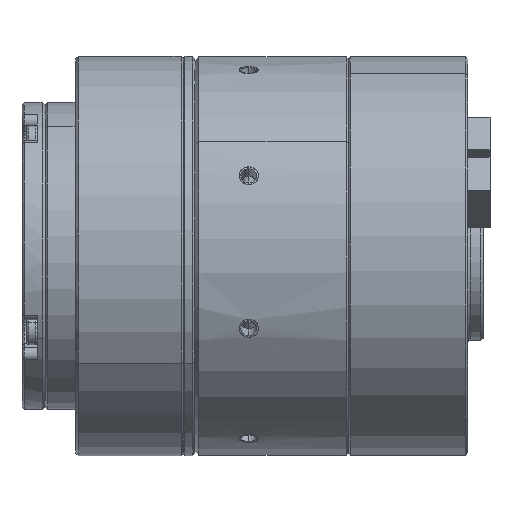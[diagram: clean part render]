
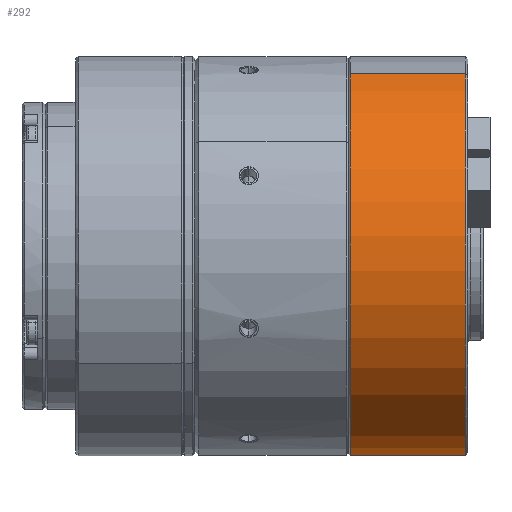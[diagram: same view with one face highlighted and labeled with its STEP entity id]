
A CAD part, left-side view. The second image highlights one B-rep face of the part: STEP entity #292.
In plain terms, the highlighted cylindrical face has radius 26 mm (diameter 52 mm), a partial arc.
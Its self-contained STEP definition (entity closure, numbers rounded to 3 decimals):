
#273 = DIRECTION ( 'NONE',  ( 0., -1., 0. ) ) ;
#292 = ADVANCED_FACE ( 'NONE', ( #4218 ), #4007, .T. ) ;
#341 = DIRECTION ( 'NONE',  ( 0.41, 0., -0.912 ) ) ;
#1719 = DIRECTION ( 'NONE',  ( 0., -1., 0. ) ) ;
#2268 = ORIENTED_EDGE ( 'NONE', *, *, #31131, .T. ) ;
#2288 = DIRECTION ( 'NONE',  ( 0., -1., 0. ) ) ;
#3320 = VERTEX_POINT ( 'NONE', #39331 ) ;
#4007 = CYLINDRICAL_SURFACE ( 'NONE', #16033, 26. ) ;
#4218 = FACE_OUTER_BOUND ( 'NONE', #36639, .T. ) ;
#7577 = CIRCLE ( 'NONE', #26373, 26. ) ;
#9650 = VECTOR ( 'NONE', #1719, 1000. ) ;
#10876 = ORIENTED_EDGE ( 'NONE', *, *, #11990, .F. ) ;
#11401 = DIRECTION ( 'NONE',  ( -0.41, 0., 0.912 ) ) ;
#11403 = VECTOR ( 'NONE', #2288, 1000. ) ;
#11990 = EDGE_CURVE ( 'NONE', #29330, #41711, #42317, .T. ) ;
#13827 = DIRECTION ( 'NONE',  ( 0., 1., 0. ) ) ;
#14891 = CARTESIAN_POINT ( 'NONE',  ( 0., -33., 0. ) ) ;
#15224 = CARTESIAN_POINT ( 'NONE',  ( 10.657, -33., -23.716 ) ) ;
#15443 = LINE ( 'NONE', #15224, #9650 ) ;
#15505 = ORIENTED_EDGE ( 'NONE', *, *, #22636, .T. ) ;
#16033 = AXIS2_PLACEMENT_3D ( 'NONE', #14891, #24477, #11401 ) ;
#16465 = CARTESIAN_POINT ( 'NONE',  ( 0., -34.7, 0. ) ) ;
#16816 = CARTESIAN_POINT ( 'NONE',  ( -10.657, -34.7, 23.716 ) ) ;
#20241 = CIRCLE ( 'NONE', #38294, 26. ) ;
#20732 = ORIENTED_EDGE ( 'NONE', *, *, #27079, .T. ) ;
#21904 = CARTESIAN_POINT ( 'NONE',  ( -10.657, -33., 23.716 ) ) ;
#22636 = EDGE_CURVE ( 'NONE', #28800, #41711, #7577, .T. ) ;
#22781 = CARTESIAN_POINT ( 'NONE',  ( 10.657, -34.7, -23.716 ) ) ;
#24477 = DIRECTION ( 'NONE',  ( 0., -1., 0. ) ) ;
#26373 = AXIS2_PLACEMENT_3D ( 'NONE', #16465, #13827, #341 ) ;
#27079 = EDGE_CURVE ( 'NONE', #3320, #28800, #15443, .T. ) ;
#28800 = VERTEX_POINT ( 'NONE', #22781 ) ;
#29330 = VERTEX_POINT ( 'NONE', #43016 ) ;
#31131 = EDGE_CURVE ( 'NONE', #29330, #3320, #20241, .T. ) ;
#36639 = EDGE_LOOP ( 'NONE', ( #2268, #20732, #15505, #10876 ) ) ;
#36827 = DIRECTION ( 'NONE',  ( 0.41, 0., -0.912 ) ) ;
#38294 = AXIS2_PLACEMENT_3D ( 'NONE', #40955, #273, #36827 ) ;
#39331 = CARTESIAN_POINT ( 'NONE',  ( 10.657, -19.7, -23.716 ) ) ;
#40955 = CARTESIAN_POINT ( 'NONE',  ( 0., -19.7, 0. ) ) ;
#41711 = VERTEX_POINT ( 'NONE', #16816 ) ;
#42317 = LINE ( 'NONE', #21904, #11403 ) ;
#43016 = CARTESIAN_POINT ( 'NONE',  ( -10.657, -19.7, 23.716 ) ) ;
